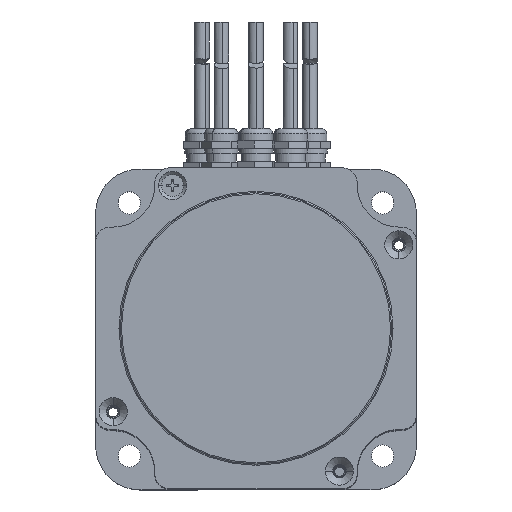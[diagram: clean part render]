
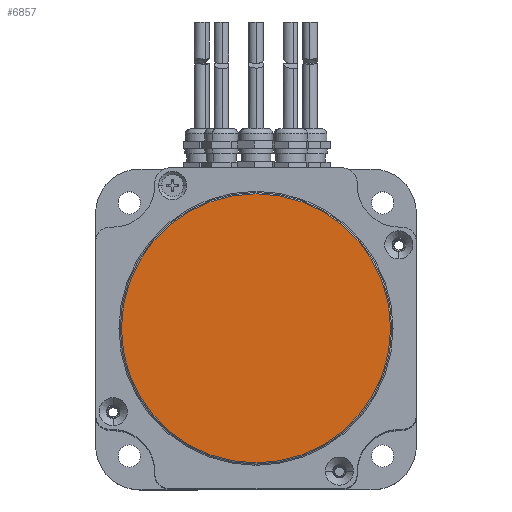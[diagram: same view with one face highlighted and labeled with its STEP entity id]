
A CAD part, top view. The second image highlights one B-rep face of the part: STEP entity #6857.
In plain terms, the highlighted planar face has unit normal (0, 0, 1).
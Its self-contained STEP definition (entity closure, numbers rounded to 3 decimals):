
#1063 = DIRECTION ( 'NONE',  ( 0., 0., 1. ) ) ;
#2619 = DIRECTION ( 'NONE',  ( -1., 0., 0. ) ) ;
#5579 = ORIENTED_EDGE ( 'NONE', *, *, #46085, .T. ) ;
#6857 = ADVANCED_FACE ( 'NONE', ( #46058 ), #39982, .F. ) ;
#13072 = CARTESIAN_POINT ( 'NONE',  ( -175.883, 27.006, 277.149 ) ) ;
#14678 = DIRECTION ( 'NONE',  ( -1., 0., 0. ) ) ;
#16322 = VERTEX_POINT ( 'NONE', #13072 ) ;
#17461 = EDGE_CURVE ( 'NONE', #20987, #16322, #23449, .T. ) ;
#20987 = VERTEX_POINT ( 'NONE', #37414 ) ;
#22403 = DIRECTION ( 'NONE',  ( 0., 0., 1. ) ) ;
#23449 = CIRCLE ( 'NONE', #47282, 54.5 ) ;
#24576 = AXIS2_PLACEMENT_3D ( 'NONE', #39634, #40162, #2619 ) ;
#25674 = CARTESIAN_POINT ( 'NONE',  ( -121.383, 27.006, 277.149 ) ) ;
#37414 = CARTESIAN_POINT ( 'NONE',  ( -66.883, 27.006, 277.149 ) ) ;
#39634 = CARTESIAN_POINT ( 'NONE',  ( -56.383, -37.994, 277.149 ) ) ;
#39982 = PLANE ( 'NONE',  #24576 ) ;
#40162 = DIRECTION ( 'NONE',  ( 0., 0., -1. ) ) ;
#42745 = CARTESIAN_POINT ( 'NONE',  ( -121.383, 27.006, 277.149 ) ) ;
#45317 = EDGE_LOOP ( 'NONE', ( #5579, #48945 ) ) ;
#45732 = CIRCLE ( 'NONE', #46127, 54.5 ) ;
#46058 = FACE_OUTER_BOUND ( 'NONE', #45317, .T. ) ;
#46085 = EDGE_CURVE ( 'NONE', #16322, #20987, #45732, .T. ) ;
#46127 = AXIS2_PLACEMENT_3D ( 'NONE', #42745, #22403, #46855 ) ;
#46855 = DIRECTION ( 'NONE',  ( -1., 0., 0. ) ) ;
#47282 = AXIS2_PLACEMENT_3D ( 'NONE', #25674, #1063, #14678 ) ;
#48945 = ORIENTED_EDGE ( 'NONE', *, *, #17461, .T. ) ;
